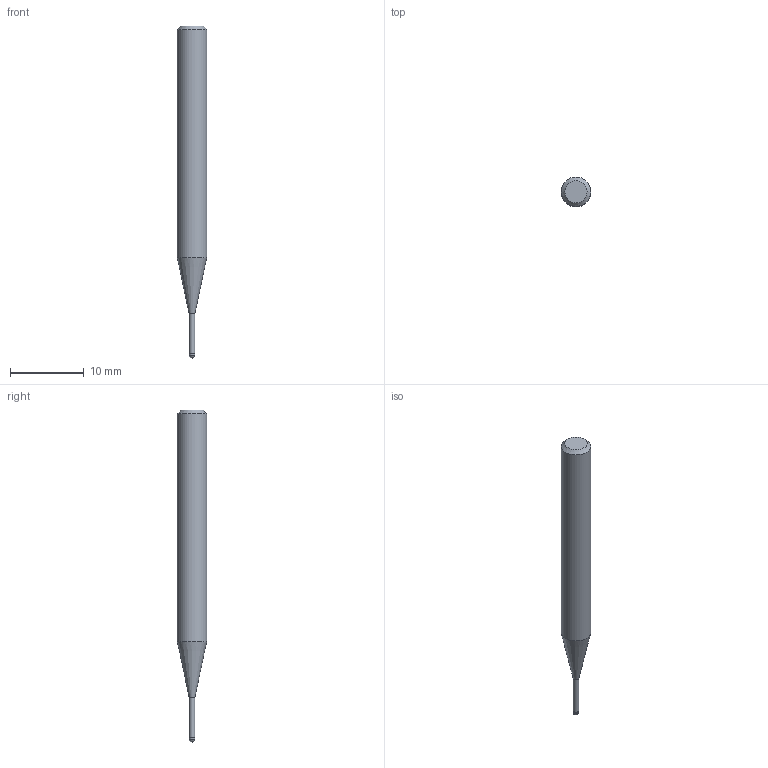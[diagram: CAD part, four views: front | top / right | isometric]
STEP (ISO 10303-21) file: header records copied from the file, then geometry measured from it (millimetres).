
FILE_DESCRIPTION((''),'2;1');
FILE_NAME('C:\Users\nsx150\AppData\Local\Temp\Mastercam 2021\3SYKECWX22\TEMP.step','2021-04-22T10:01:38',(''),(''),'STEP Write','Mastercam 2021 ... CNC Software, Inc.','');
FILE_SCHEMA(('AUTOMOTIVE_DESIGN'));
Length unit declared in the file: millimetre
Products named in the file (1): None
Bounding box: 4 x 4 x 45 mm (x, y, z)
Volume: 434.7 mm3; surface area: 476.5 mm2
Topology: 2 solids, 2 shells, 9 faces, 14 edges, 8 vertices
Faces by surface type: plane 3, cylinder 3, cone 2, sphere 1
Full cylindrical faces by diameter (mm): 0.76 x1, 0.8 x1, 4 x1
Entity records: 211 total; most frequent: DIRECTION 36, CARTESIAN_POINT 25, AXIS2_PLACEMENT_3D 18, ORIENTED_EDGE 14, EDGE_LOOP 14, STYLED_ITEM 12, ADVANCED_FACE 9, FACE_BOUND 8
